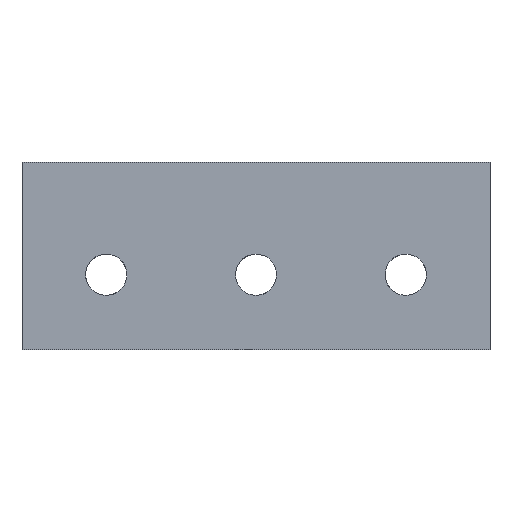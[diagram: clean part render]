
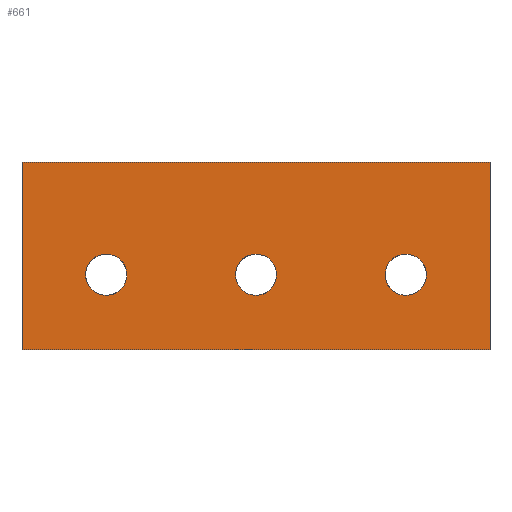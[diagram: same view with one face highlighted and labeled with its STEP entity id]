
A CAD part, left-side view. The second image highlights one B-rep face of the part: STEP entity #661.
In plain terms, the highlighted planar face has unit normal (-1, 0, 0).
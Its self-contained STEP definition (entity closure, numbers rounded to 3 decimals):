
#347=CARTESIAN_POINT('Vertex',(0.,250.,0.)) ;
#354=CARTESIAN_POINT('Vertex',(0.,0.,0.)) ;
#357=CARTESIAN_POINT('Line Origine',(0.,125.,0.)) ;
#374=CARTESIAN_POINT('Line Origine',(0.,250.,50.)) ;
#378=CARTESIAN_POINT('Vertex',(0.,250.,100.)) ;
#398=CARTESIAN_POINT('Line Origine',(0.,125.,100.)) ;
#402=CARTESIAN_POINT('Vertex',(0.,0.,100.)) ;
#422=CARTESIAN_POINT('Line Origine',(0.,0.,50.)) ;
#443=CARTESIAN_POINT('Vertex',(0.,205.,51.)) ;
#446=CARTESIAN_POINT('Axis2P3D Location',(0.,205.,40.)) ;
#450=CARTESIAN_POINT('Vertex',(0.,216.,40.)) ;
#453=CARTESIAN_POINT('Axis2P3D Location',(0.,205.,40.)) ;
#457=CARTESIAN_POINT('Vertex',(0.,205.,29.)) ;
#479=CARTESIAN_POINT('Axis2P3D Location',(0.,205.,40.)) ;
#483=CARTESIAN_POINT('Vertex',(0.,194.,40.)) ;
#486=CARTESIAN_POINT('Axis2P3D Location',(0.,205.,40.)) ;
#509=CARTESIAN_POINT('Vertex',(0.,125.,51.)) ;
#512=CARTESIAN_POINT('Axis2P3D Location',(0.,125.,40.)) ;
#516=CARTESIAN_POINT('Vertex',(0.,136.,40.)) ;
#519=CARTESIAN_POINT('Axis2P3D Location',(0.,125.,40.)) ;
#523=CARTESIAN_POINT('Vertex',(0.,125.,29.)) ;
#545=CARTESIAN_POINT('Axis2P3D Location',(0.,125.,40.)) ;
#549=CARTESIAN_POINT('Vertex',(0.,114.,40.)) ;
#552=CARTESIAN_POINT('Axis2P3D Location',(0.,125.,40.)) ;
#575=CARTESIAN_POINT('Vertex',(0.,45.,51.)) ;
#578=CARTESIAN_POINT('Axis2P3D Location',(0.,45.,40.)) ;
#582=CARTESIAN_POINT('Vertex',(0.,56.,40.)) ;
#585=CARTESIAN_POINT('Axis2P3D Location',(0.,45.,40.)) ;
#589=CARTESIAN_POINT('Vertex',(0.,45.,29.)) ;
#611=CARTESIAN_POINT('Axis2P3D Location',(0.,45.,40.)) ;
#615=CARTESIAN_POINT('Vertex',(0.,34.,40.)) ;
#618=CARTESIAN_POINT('Axis2P3D Location',(0.,45.,40.)) ;
#632=CARTESIAN_POINT('Axis2P3D Location',(0.,250.,100.)) ;
#358=DIRECTION('Vector Direction',(0.,-1.,0.)) ;
#375=DIRECTION('Vector Direction',(0.,0.,-1.)) ;
#399=DIRECTION('Vector Direction',(0.,-1.,0.)) ;
#423=DIRECTION('Vector Direction',(0.,0.,-1.)) ;
#447=DIRECTION('Axis2P3D Direction',(-1.,-0.,0.)) ;
#454=DIRECTION('Axis2P3D Direction',(-1.,-0.,0.)) ;
#480=DIRECTION('Axis2P3D Direction',(-1.,-0.,-0.)) ;
#487=DIRECTION('Axis2P3D Direction',(-1.,-0.,-0.)) ;
#513=DIRECTION('Axis2P3D Direction',(-1.,-0.,0.)) ;
#520=DIRECTION('Axis2P3D Direction',(-1.,-0.,0.)) ;
#546=DIRECTION('Axis2P3D Direction',(-1.,-0.,-0.)) ;
#553=DIRECTION('Axis2P3D Direction',(-1.,-0.,-0.)) ;
#579=DIRECTION('Axis2P3D Direction',(-1.,-0.,0.)) ;
#586=DIRECTION('Axis2P3D Direction',(-1.,-0.,0.)) ;
#612=DIRECTION('Axis2P3D Direction',(-1.,-0.,-0.)) ;
#619=DIRECTION('Axis2P3D Direction',(-1.,-0.,-0.)) ;
#633=DIRECTION('Axis2P3D Direction',(1.,0.,-0.)) ;
#634=DIRECTION('Axis2P3D XDirection',(-0.,0.,-1.)) ;
#448=AXIS2_PLACEMENT_3D('Circle Axis2P3D',#446,#447,$) ;
#455=AXIS2_PLACEMENT_3D('Circle Axis2P3D',#453,#454,$) ;
#481=AXIS2_PLACEMENT_3D('Circle Axis2P3D',#479,#480,$) ;
#488=AXIS2_PLACEMENT_3D('Circle Axis2P3D',#486,#487,$) ;
#514=AXIS2_PLACEMENT_3D('Circle Axis2P3D',#512,#513,$) ;
#521=AXIS2_PLACEMENT_3D('Circle Axis2P3D',#519,#520,$) ;
#547=AXIS2_PLACEMENT_3D('Circle Axis2P3D',#545,#546,$) ;
#554=AXIS2_PLACEMENT_3D('Circle Axis2P3D',#552,#553,$) ;
#580=AXIS2_PLACEMENT_3D('Circle Axis2P3D',#578,#579,$) ;
#587=AXIS2_PLACEMENT_3D('Circle Axis2P3D',#585,#586,$) ;
#613=AXIS2_PLACEMENT_3D('Circle Axis2P3D',#611,#612,$) ;
#620=AXIS2_PLACEMENT_3D('Circle Axis2P3D',#618,#619,$) ;
#635=AXIS2_PLACEMENT_3D('Plane Axis2P3D',#632,#633,#634) ;
#638=ORIENTED_EDGE('',*,*,#361,.T.) ;
#639=ORIENTED_EDGE('',*,*,#426,.F.) ;
#640=ORIENTED_EDGE('',*,*,#404,.F.) ;
#641=ORIENTED_EDGE('',*,*,#380,.T.) ;
#644=ORIENTED_EDGE('',*,*,#452,.T.) ;
#645=ORIENTED_EDGE('',*,*,#490,.T.) ;
#646=ORIENTED_EDGE('',*,*,#485,.T.) ;
#647=ORIENTED_EDGE('',*,*,#459,.T.) ;
#650=ORIENTED_EDGE('',*,*,#518,.T.) ;
#651=ORIENTED_EDGE('',*,*,#556,.T.) ;
#652=ORIENTED_EDGE('',*,*,#551,.T.) ;
#653=ORIENTED_EDGE('',*,*,#525,.T.) ;
#656=ORIENTED_EDGE('',*,*,#584,.T.) ;
#657=ORIENTED_EDGE('',*,*,#622,.T.) ;
#658=ORIENTED_EDGE('',*,*,#617,.T.) ;
#659=ORIENTED_EDGE('',*,*,#591,.T.) ;
#648=FACE_BOUND('',#643,.T.) ;
#654=FACE_BOUND('',#649,.T.) ;
#660=FACE_BOUND('',#655,.T.) ;
#359=VECTOR('Line Direction',#358,1.) ;
#376=VECTOR('Line Direction',#375,1.) ;
#400=VECTOR('Line Direction',#399,1.) ;
#424=VECTOR('Line Direction',#423,1.) ;
#661=ADVANCED_FACE('A612-100-2501',(#642,#648,#654,#660),#636,.F.) ;
#449=CIRCLE('generated circle',#448,11.) ;
#456=CIRCLE('generated circle',#455,11.) ;
#482=CIRCLE('generated circle',#481,11.) ;
#489=CIRCLE('generated circle',#488,11.) ;
#515=CIRCLE('generated circle',#514,11.) ;
#522=CIRCLE('generated circle',#521,11.) ;
#548=CIRCLE('generated circle',#547,11.) ;
#555=CIRCLE('generated circle',#554,11.) ;
#581=CIRCLE('generated circle',#580,11.) ;
#588=CIRCLE('generated circle',#587,11.) ;
#614=CIRCLE('generated circle',#613,11.) ;
#621=CIRCLE('generated circle',#620,11.) ;
#361=EDGE_CURVE('',#348,#355,#360,.T.) ;
#380=EDGE_CURVE('',#379,#348,#377,.T.) ;
#404=EDGE_CURVE('',#379,#403,#401,.T.) ;
#426=EDGE_CURVE('',#403,#355,#425,.T.) ;
#452=EDGE_CURVE('',#451,#444,#449,.F.) ;
#459=EDGE_CURVE('',#458,#451,#456,.F.) ;
#485=EDGE_CURVE('',#484,#458,#482,.F.) ;
#490=EDGE_CURVE('',#444,#484,#489,.F.) ;
#518=EDGE_CURVE('',#517,#510,#515,.F.) ;
#525=EDGE_CURVE('',#524,#517,#522,.F.) ;
#551=EDGE_CURVE('',#550,#524,#548,.F.) ;
#556=EDGE_CURVE('',#510,#550,#555,.F.) ;
#584=EDGE_CURVE('',#583,#576,#581,.F.) ;
#591=EDGE_CURVE('',#590,#583,#588,.F.) ;
#617=EDGE_CURVE('',#616,#590,#614,.F.) ;
#622=EDGE_CURVE('',#576,#616,#621,.F.) ;
#637=EDGE_LOOP('',(#638,#639,#640,#641)) ;
#643=EDGE_LOOP('',(#644,#645,#646,#647)) ;
#649=EDGE_LOOP('',(#650,#651,#652,#653)) ;
#655=EDGE_LOOP('',(#656,#657,#658,#659)) ;
#642=FACE_OUTER_BOUND('',#637,.T.) ;
#360=LINE('Line',#357,#359) ;
#377=LINE('Line',#374,#376) ;
#401=LINE('Line',#398,#400) ;
#425=LINE('Line',#422,#424) ;
#636=PLANE('Plane',#635) ;
#348=VERTEX_POINT('',#347) ;
#355=VERTEX_POINT('',#354) ;
#379=VERTEX_POINT('',#378) ;
#403=VERTEX_POINT('',#402) ;
#444=VERTEX_POINT('',#443) ;
#451=VERTEX_POINT('',#450) ;
#458=VERTEX_POINT('',#457) ;
#484=VERTEX_POINT('',#483) ;
#510=VERTEX_POINT('',#509) ;
#517=VERTEX_POINT('',#516) ;
#524=VERTEX_POINT('',#523) ;
#550=VERTEX_POINT('',#549) ;
#576=VERTEX_POINT('',#575) ;
#583=VERTEX_POINT('',#582) ;
#590=VERTEX_POINT('',#589) ;
#616=VERTEX_POINT('',#615) ;
